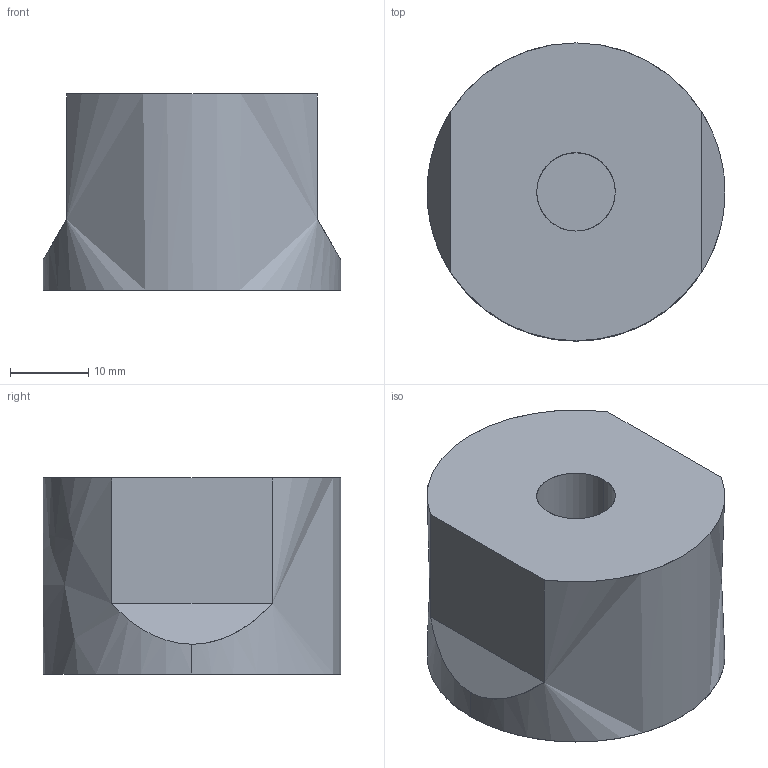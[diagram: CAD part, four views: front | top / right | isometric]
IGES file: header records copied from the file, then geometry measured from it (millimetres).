
Global section: file name: E:\UnigraphicsGraphicData\MISUMI_PRESS-PARTS\IGES\3d_sbvm38-25-r_00165_r00.igs; native system: NX V5.0; preprocessor: UGS NX IGES V5.0; author: MISUMI; date: 20110105.162514; units: millimetre
Bounding box: 38 x 38 x 25 mm (x, y, z)
Surface area: 5780.5 mm2 (no closed solid volume)
Topology: 0 solids, 0 shells, 11 faces, 83 edges, 83 vertices
Faces by surface type: bspline 11
